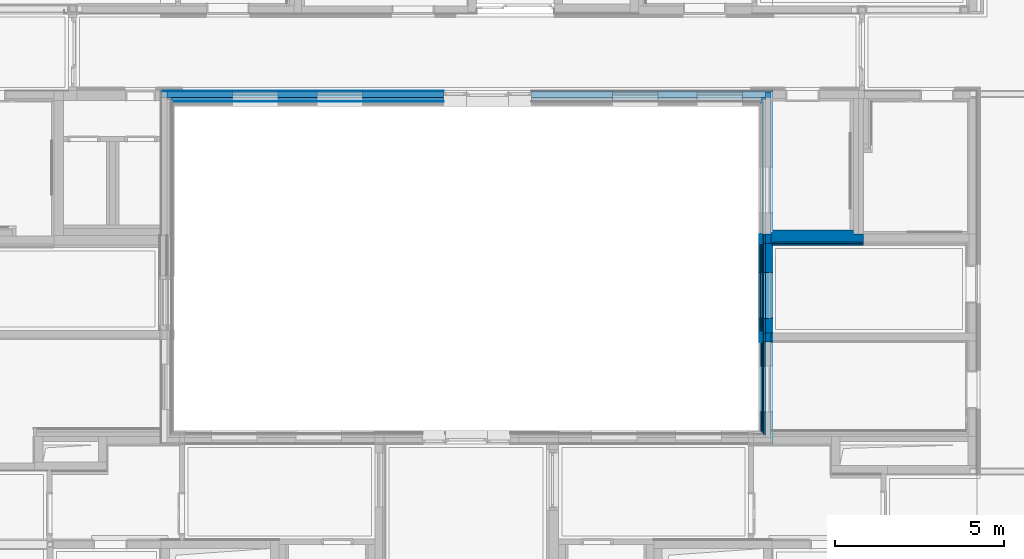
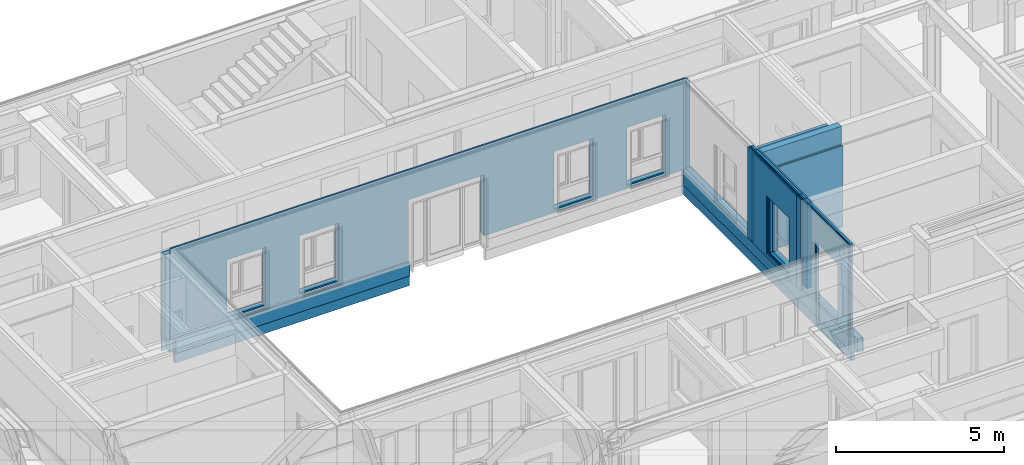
# One storey, part 34 of 207: 40 walls, 31 openings.
"""IFC4 building model written with IfcOpenShell, lengths in metres."""

from ifc_helpers import new_model, entity, si_unit, converted_unit, derived_unit, frame, frame_2d, origin, origin_with_axes, place, context, subcontext, project, spatial, polyline, rectangle, outline, extrude, material, element, save


model = new_model("IFC4")

# Units and contexts
model_context = context("Model", 3, precision=1e-05, world=origin())
body_context = subcontext(model_context, "Body", "Model", "MODEL_VIEW")
ifc_project = project(units=[si_unit("LENGTHUNIT", "METRE"), si_unit("AREAUNIT", "SQUARE_METRE"), si_unit("VOLUMEUNIT", "CUBIC_METRE"), si_unit("MASSUNIT", "GRAM", prefix="KILO"), converted_unit("PLANEANGLEUNIT", "DEGREE", entity("IfcPlaneAngleMeasure", 0.0174532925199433), si_unit("PLANEANGLEUNIT", "RADIAN"), dimensions=[0, 0, 0, 0, 0, 0, 0]), derived_unit("THERMALTRANSMITTANCEUNIT", [(si_unit("POWERUNIT", "WATT"), 1), (si_unit("THERMODYNAMICTEMPERATUREUNIT", "KELVIN"), -1), (si_unit("LENGTHUNIT", "METRE"), -2)]), derived_unit("VOLUMETRICFLOWRATEUNIT", [(si_unit("LENGTHUNIT", "METRE"), 3), (converted_unit("TIMEUNIT", "hour", entity("IfcTimeMeasure", 3600.0), si_unit("TIMEUNIT", "SECOND"), dimensions=[0, 0, 1, 0, 0, 0, 0]), -1), (si_unit("LENGTHUNIT", "METRE"), -1)])], contexts=[model_context])

# Site, building, storey
site_placement = place(None, origin())
site = spatial("IfcSite", under=ifc_project, at=site_placement, Name="Psychiatrie Neubau Wunstorf", CompositionType="ELEMENT")
building_placement = place(site_placement, origin())
building = spatial("IfcBuilding", under=site, at=building_placement, Name="Neubau H2 Stationsgebäude", CompositionType="ELEMENT")
storey_placement = place(building_placement, frame((0.0, 0.0, -0.2)))
storey = spatial("IfcBuildingStorey", under=building, at=storey_placement, Name="H2 Ebene 0", CompositionType="ELEMENT", Elevation=-0.2)

# Wall, opening
ifc_material_1 = material(Name="WA-DL")
wall_1_placement = place(storey_placement, frame((61.865000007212, 10.3899996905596, 0.5), z_axis=(0.0, 0.0, 1.0), x_axis=(2.64821317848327e-15, 1.0, 0.0)))
wall_1 = element("IfcWall", 1, at=wall_1_placement, inside=storey, material=ifc_material_1, context=body_context, shape_type="SweptSolid", body=[
    extrude(rectangle(XDim=2.74749694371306, YDim=0.08, at=frame_2d((1.37374847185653, 0.04), x_axis=(1.0, 0.0))), origin_with_axes(), (0.0, 0.0, 1.0), 3.3),
])
opening_1_placement = place(wall_1_placement, frame((0.685, 0.0, 0.1), z_axis=(-2.8421709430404e-15, 1.0, 0.0), x_axis=(0.0, 0.0, 1.0)))
element("IfcOpeningElement", 2, at=opening_1_placement, cuts=wall_1, Name="Fensteröffnung", ObjectType="Opening", context=body_context, shape_type="SweptSolid", body=[
    extrude(outline(polyline([(2.12, 1.35), (2.12, 0.0), (0.0, 0.0), (0.0, 1.35), (2.12, 1.35)])), origin_with_axes(), (0.0, 0.0, 1.0), 0.08),
])

ifc_material_2 = material(Name="WA-LB")
wall_2_placement = place(storey_placement, frame((61.785000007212, 10.4259996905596, 0.5), z_axis=(0.0, 0.0, 1.0), x_axis=(2.68337297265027e-15, 1.0, 0.0)))
wall_2 = element("IfcWall", 3, at=wall_2_placement, inside=storey, material=ifc_material_2, context=body_context, shape_type="SweptSolid", body=[
    extrude(rectangle(XDim=2.71149694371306, YDim=0.036, at=frame_2d((1.35574847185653, 0.018), x_axis=(1.0, 0.0))), origin_with_axes(), (0.0, 0.0, 1.0), 3.3),
])
opening_2_placement = place(wall_2_placement, frame((0.649, 0.0, 0.1), z_axis=(-3.15796771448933e-15, 1.0, 0.0), x_axis=(0.0, 0.0, 1.0)))
element("IfcOpeningElement", 4, at=opening_2_placement, cuts=wall_2, Name="Fensteröffnung", ObjectType="Opening", context=body_context, shape_type="SweptSolid", body=[
    extrude(outline(polyline([(2.12, 1.35), (2.12, 0.0), (0.0, 0.0), (0.0, 1.35), (2.12, 1.35)])), origin_with_axes(), (0.0, 0.0, 1.0), 0.036),
])

ifc_material_3 = material(Name="WA-KL")
wall_3_placement = place(storey_placement, frame((61.749000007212, 10.4499996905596, 0.5), z_axis=(0.0, 0.0, 1.0), x_axis=(2.70733614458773e-15, 1.0, 0.0)))
wall_3 = element("IfcWall", 5, at=wall_3_placement, inside=storey, material=ifc_material_3, context=body_context, shape_type="SweptSolid", body=[
    extrude(rectangle(XDim=2.68749694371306, YDim=0.024, at=frame_2d((1.34374847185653, 0.012), x_axis=(1.0, 0.0))), origin_with_axes(), (0.0, 0.0, 1.0), 3.3),
])
opening_3_placement = place(wall_3_placement, frame((0.625, 0.0, 0.1), z_axis=(-4.736951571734e-15, 1.0, 0.0), x_axis=(0.0, 0.0, 1.0)))
element("IfcOpeningElement", 6, at=opening_3_placement, cuts=wall_3, Name="Fensteröffnung", ObjectType="Opening", context=body_context, shape_type="SweptSolid", body=[
    extrude(outline(polyline([(2.12, 1.35), (2.12, 0.0), (0.0, 0.0), (0.0, 1.35), (2.12, 1.35)])), origin_with_axes(), (0.0, 0.0, 1.0), 0.024),
])

ifc_material_4 = material(Name="WA-LB")
wall_4_placement = place(storey_placement, frame((62.0610000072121, 13.4094966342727, 0.5), z_axis=(0.0, 0.0, 1.0), x_axis=(0.0, 1.0, 0.0)))
wall_4 = element("IfcWall", 7, at=wall_4_placement, inside=storey, material=ifc_material_4, context=body_context, shape_type="SweptSolid", body=[
    extrude(rectangle(XDim=2.65450336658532, YDim=0.036, at=frame_2d((1.32725168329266, 0.018), x_axis=(1.0, 0.0))), origin_with_axes(), (0.0, 0.0, 1.0), 3.1),
])
opening_4_placement = place(wall_4_placement, frame((0.434501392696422, 0.0, 0.1), z_axis=(0.0, 1.0, 0.0), x_axis=(0.0, 0.0, 1.0)))
element("IfcOpeningElement", 8, at=opening_4_placement, cuts=wall_4, Name="Fensteröffnung", ObjectType="Opening", context=body_context, shape_type="SweptSolid", body=[
    extrude(outline(polyline([(2.12, 1.35), (2.12, 0.0), (0.0, 0.0), (0.0, 1.35), (2.12, 1.35)])), origin_with_axes(), (0.0, 0.0, 1.0), 0.036),
])

ifc_material_5 = material(Name="WA-HD")
wall_5_placement = place(storey_placement, frame((62.0250000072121, 13.4094966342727, 0.5), z_axis=(0.0, 0.0, 1.0), x_axis=(0.0, 1.0, 0.0)))
wall_5 = element("IfcWall", 9, at=wall_5_placement, inside=storey, material=ifc_material_5, context=body_context, shape_type="SweptSolid", body=[
    extrude(rectangle(XDim=2.65450336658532, YDim=0.16, at=frame_2d((1.32725168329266, 0.08), x_axis=(1.0, 0.0))), origin_with_axes(), (0.0, 0.0, 1.0), 3.1),
])
opening_5_placement = place(wall_5_placement, frame((0.434501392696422, 0.0, 0.1), z_axis=(0.0, 1.0, 0.0), x_axis=(0.0, 0.0, 1.0)))
element("IfcOpeningElement", 10, at=opening_5_placement, cuts=wall_5, Name="Fensteröffnung", ObjectType="Opening", context=body_context, shape_type="SweptSolid", body=[
    extrude(outline(polyline([(2.12, 1.35), (2.12, 0.0), (0.0, 0.0), (0.0, 1.35), (2.12, 1.35)])), origin_with_axes(), (0.0, 0.0, 1.0), 0.16),
])

ifc_material_6 = material(Name="WA-DL")
wall_6_placement = place(storey_placement, frame((61.8650000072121, 13.4094966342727, 0.5), z_axis=(0.0, 0.0, 1.0), x_axis=(0.0, 1.0, 0.0)))
wall_6 = element("IfcWall", 11, at=wall_6_placement, inside=storey, material=ifc_material_6, context=body_context, shape_type="SweptSolid", body=[
    extrude(rectangle(XDim=2.65450336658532, YDim=0.08, at=frame_2d((1.32725168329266, 0.04), x_axis=(1.0, 0.0))), origin_with_axes(), (0.0, 0.0, 1.0), 3.3),
])
opening_6_placement = place(wall_6_placement, frame((0.434501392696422, 0.0, 0.1), z_axis=(0.0, 1.0, 0.0), x_axis=(0.0, 0.0, 1.0)))
element("IfcOpeningElement", 12, at=opening_6_placement, cuts=wall_6, Name="Fensteröffnung", ObjectType="Opening", context=body_context, shape_type="SweptSolid", body=[
    extrude(outline(polyline([(2.12, 1.35), (2.12, 0.0), (0.0, 0.0), (0.0, 1.35), (2.12, 1.35)])), origin_with_axes(), (0.0, 0.0, 1.0), 0.08),
])

ifc_material_7 = material(Name="WA-LB")
wall_7_placement = place(storey_placement, frame((61.7850000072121, 13.4094966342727, 0.5), z_axis=(0.0, 0.0, 1.0), x_axis=(0.0, 1.0, 0.0)))
wall_7 = element("IfcWall", 13, at=wall_7_placement, inside=storey, material=ifc_material_7, context=body_context, shape_type="SweptSolid", body=[
    extrude(rectangle(XDim=2.65450336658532, YDim=0.036, at=frame_2d((1.32725168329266, 0.018), x_axis=(1.0, 0.0))), origin_with_axes(), (0.0, 0.0, 1.0), 3.3),
])
opening_7_placement = place(wall_7_placement, frame((0.434501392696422, 0.0, 0.1), z_axis=(0.0, 1.0, 0.0), x_axis=(0.0, 0.0, 1.0)))
element("IfcOpeningElement", 14, at=opening_7_placement, cuts=wall_7, Name="Fensteröffnung", ObjectType="Opening", context=body_context, shape_type="SweptSolid", body=[
    extrude(outline(polyline([(2.12, 1.35), (2.12, 0.0), (0.0, 0.0), (0.0, 1.35), (2.12, 1.35)])), origin_with_axes(), (0.0, 0.0, 1.0), 0.036),
])

ifc_material_8 = material(Name="WA-KL")
wall_8_placement = place(storey_placement, frame((61.7490000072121, 13.4094966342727, 0.5), z_axis=(0.0, 0.0, 1.0), x_axis=(0.0, 1.0, 0.0)))
wall_8 = element("IfcWall", 15, at=wall_8_placement, inside=storey, material=ifc_material_8, context=body_context, shape_type="SweptSolid", body=[
    extrude(rectangle(XDim=2.65450336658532, YDim=0.024, at=frame_2d((1.32725168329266, 0.012), x_axis=(1.0, 0.0))), origin_with_axes(), (0.0, 0.0, 1.0), 3.3),
])
opening_8_placement = place(wall_8_placement, frame((0.434501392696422, 0.0, 0.1), z_axis=(0.0, 1.0, 0.0), x_axis=(0.0, 0.0, 1.0)))
element("IfcOpeningElement", 16, at=opening_8_placement, cuts=wall_8, Name="Fensteröffnung", ObjectType="Opening", context=body_context, shape_type="SweptSolid", body=[
    extrude(outline(polyline([(2.12, 1.35), (2.12, 0.0), (0.0, 0.0), (0.0, 1.35), (2.12, 1.35)])), origin_with_axes(), (0.0, 0.0, 1.0), 0.024),
])

ifc_material_9 = material(Name="WA-TL")
wall_9_placement = place(storey_placement, frame((61.7250000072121, 13.4094966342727, 0.5), z_axis=(0.0, 0.0, 1.0), x_axis=(0.0, 1.0, 0.0)))
wall_9 = element("IfcWall", 17, at=wall_9_placement, inside=storey, material=ifc_material_9, context=body_context, shape_type="SweptSolid", body=[
    extrude(rectangle(XDim=2.65450336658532, YDim=0.024, at=frame_2d((1.32725168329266, 0.012), x_axis=(1.0, 0.0))), origin_with_axes(), (0.0, 0.0, 1.0), 3.3),
])
opening_9_placement = place(wall_9_placement, frame((0.434501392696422, 0.0, 0.1), z_axis=(0.0, 1.0, 0.0), x_axis=(0.0, 0.0, 1.0)))
element("IfcOpeningElement", 18, at=opening_9_placement, cuts=wall_9, Name="Fensteröffnung", ObjectType="Opening", context=body_context, shape_type="SweptSolid", body=[
    extrude(outline(polyline([(2.12, 1.35), (2.12, 0.0), (0.0, 0.0), (0.0, 1.35), (2.12, 1.35)])), origin_with_axes(), (0.0, 0.0, 1.0), 0.024),
])

ifc_material_10 = material(Name="WA-HS")
wall_10_placement = place(storey_placement, frame((61.7010000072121, 13.4094966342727, 0.5), z_axis=(0.0, 0.0, 1.0), x_axis=(0.0, 1.0, 0.0)))
wall_10 = element("IfcWall", 19, at=wall_10_placement, inside=storey, material=ifc_material_10, context=body_context, shape_type="SweptSolid", body=[
    extrude(rectangle(XDim=2.65450336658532, YDim=0.042, at=frame_2d((1.32725168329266, 0.021), x_axis=(1.0, 0.0))), origin_with_axes(), (0.0, 0.0, 1.0), 3.3),
])
opening_10_placement = place(wall_10_placement, frame((0.434501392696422, 0.0, 0.1), z_axis=(0.0, 1.0, 0.0), x_axis=(0.0, 0.0, 1.0)))
element("IfcOpeningElement", 20, at=opening_10_placement, cuts=wall_10, Name="Fensteröffnung", ObjectType="Opening", context=body_context, shape_type="SweptSolid", body=[
    extrude(outline(polyline([(2.12, 1.35), (2.12, 0.0), (0.0, 0.0), (0.0, 1.35), (2.12, 1.35)])), origin_with_axes(), (0.0, 0.0, 1.0), 0.042),
])

# Walls
ifc_material_11 = material(Name="WA-LB")
wall_11_placement = place(storey_placement, frame((62.0610000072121, 13.1374966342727, 0.5), z_axis=(0.0, 0.0, 1.0), x_axis=(0.0, 1.0, 0.0)))
element("IfcWall", 21, at=wall_11_placement, inside=storey, material=ifc_material_11, context=body_context, shape_type="SweptSolid", body=[
    extrude(rectangle(XDim=0.272, YDim=0.036, at=frame_2d((0.136, 0.018), x_axis=(1.0, 0.0))), origin_with_axes(), (0.0, 0.0, 1.0), 3.1),
])
ifc_material_12 = material(Name="WA-HD")
wall_12_placement = place(storey_placement, frame((62.0250000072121, 13.1374966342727, 0.5), z_axis=(0.0, 0.0, 1.0), x_axis=(0.0, 1.0, 0.0)))
element("IfcWall", 22, at=wall_12_placement, inside=storey, material=ifc_material_12, context=body_context, shape_type="SweptSolid", body=[
    extrude(rectangle(XDim=0.272, YDim=0.16, at=frame_2d((0.136, 0.08), x_axis=(1.0, 0.0))), origin_with_axes(), (0.0, 0.0, 1.0), 3.1),
])
ifc_material_13 = material(Name="WA-DL")
wall_13_placement = place(storey_placement, frame((61.8650000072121, 13.1374966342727, 0.5), z_axis=(0.0, 0.0, 1.0), x_axis=(0.0, 1.0, 0.0)))
element("IfcWall", 23, at=wall_13_placement, inside=storey, material=ifc_material_13, context=body_context, shape_type="SweptSolid", body=[
    extrude(rectangle(XDim=0.272, YDim=0.08, at=frame_2d((0.136, 0.04), x_axis=(1.0, 0.0))), origin_with_axes(), (0.0, 0.0, 1.0), 3.3),
])
ifc_material_14 = material(Name="WA-TP")
wall_14_placement = place(storey_placement, frame((61.7850000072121, 13.1374966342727, 0.5), z_axis=(0.0, 0.0, 1.0), x_axis=(0.0, 1.0, 0.0)))
element("IfcWall", 24, at=wall_14_placement, inside=storey, material=ifc_material_14, context=body_context, shape_type="SweptSolid", body=[
    extrude(rectangle(XDim=0.272, YDim=0.036, at=frame_2d((0.136, 0.018), x_axis=(1.0, 0.0))), origin_with_axes(), (0.0, 0.0, 1.0), 3.3),
])
ifc_material_15 = material(Name="WA-KL")
wall_15_placement = place(storey_placement, frame((61.7490000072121, 13.1374966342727, 0.5), z_axis=(0.0, 0.0, 1.0), x_axis=(0.0, 1.0, 0.0)))
element("IfcWall", 25, at=wall_15_placement, inside=storey, material=ifc_material_15, context=body_context, shape_type="SweptSolid", body=[
    extrude(rectangle(XDim=0.272, YDim=0.024, at=frame_2d((0.136, 0.012), x_axis=(1.0, 0.0))), origin_with_axes(), (0.0, 0.0, 1.0), 3.3),
])
ifc_material_16 = material(Name="WA-TL")
wall_16_placement = place(storey_placement, frame((61.7250000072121, 13.1374966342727, 0.5), z_axis=(0.0, 0.0, 1.0), x_axis=(0.0, 1.0, 0.0)))
element("IfcWall", 26, at=wall_16_placement, inside=storey, material=ifc_material_16, context=body_context, shape_type="SweptSolid", body=[
    extrude(rectangle(XDim=0.272, YDim=0.024, at=frame_2d((0.136, 0.012), x_axis=(1.0, 0.0))), origin_with_axes(), (0.0, 0.0, 1.0), 3.3),
])
ifc_material_17 = material(Name="WA-HS")
wall_17_placement = place(storey_placement, frame((61.7010000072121, 13.1374966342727, 0.5), z_axis=(0.0, 0.0, 1.0), x_axis=(0.0, 1.0, 0.0)))
element("IfcWall", 27, at=wall_17_placement, inside=storey, material=ifc_material_17, context=body_context, shape_type="SweptSolid", body=[
    extrude(rectangle(XDim=0.272, YDim=0.042, at=frame_2d((0.136, 0.021), x_axis=(1.0, 0.0))), origin_with_axes(), (0.0, 0.0, 1.0), 3.3),
])
ifc_material_18 = material(Name="WA-LB")
wall_18_placement = place(storey_placement, frame((62.0610000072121, 16.064000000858, 0.5), z_axis=(0.0, 0.0, 1.0), x_axis=(0.0, 1.0, 0.0)))
element("IfcWall", 28, at=wall_18_placement, inside=storey, material=ifc_material_18, context=body_context, shape_type="SweptSolid", body=[
    extrude(rectangle(XDim=0.272, YDim=0.036, at=frame_2d((0.136, 0.018), x_axis=(1.0, 0.0))), origin_with_axes(), (0.0, 0.0, 1.0), 3.1),
])
ifc_material_19 = material(Name="WA-HD")
wall_19_placement = place(storey_placement, frame((62.0250000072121, 16.064000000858, 0.5), z_axis=(0.0, 0.0, 1.0), x_axis=(0.0, 1.0, 0.0)))
element("IfcWall", 29, at=wall_19_placement, inside=storey, material=ifc_material_19, context=body_context, shape_type="SweptSolid", body=[
    extrude(rectangle(XDim=0.272, YDim=0.16, at=frame_2d((0.136, 0.08), x_axis=(1.0, 0.0))), origin_with_axes(), (0.0, 0.0, 1.0), 3.1),
])
ifc_material_20 = material(Name="WA-DL")
wall_20_placement = place(storey_placement, frame((61.8650000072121, 16.064000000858, 0.5), z_axis=(0.0, 0.0, 1.0), x_axis=(0.0, 1.0, 0.0)))
element("IfcWall", 30, at=wall_20_placement, inside=storey, material=ifc_material_20, context=body_context, shape_type="SweptSolid", body=[
    extrude(rectangle(XDim=0.272, YDim=0.08, at=frame_2d((0.136, 0.04), x_axis=(1.0, 0.0))), origin_with_axes(), (0.0, 0.0, 1.0), 3.3),
])
ifc_material_21 = material(Name="WA-TP")
wall_21_placement = place(storey_placement, frame((61.7850000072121, 16.064000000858, 0.5), z_axis=(0.0, 0.0, 1.0), x_axis=(0.0, 1.0, 0.0)))
element("IfcWall", 31, at=wall_21_placement, inside=storey, material=ifc_material_21, context=body_context, shape_type="SweptSolid", body=[
    extrude(rectangle(XDim=0.272, YDim=0.036, at=frame_2d((0.136, 0.018), x_axis=(1.0, 0.0))), origin_with_axes(), (0.0, 0.0, 1.0), 3.3),
])
ifc_material_22 = material(Name="WA-KL")
wall_22_placement = place(storey_placement, frame((61.7490000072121, 16.064000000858, 0.5), z_axis=(0.0, 0.0, 1.0), x_axis=(0.0, 1.0, 0.0)))
element("IfcWall", 32, at=wall_22_placement, inside=storey, material=ifc_material_22, context=body_context, shape_type="SweptSolid", body=[
    extrude(rectangle(XDim=0.272, YDim=0.024, at=frame_2d((0.136, 0.012), x_axis=(1.0, 0.0))), origin_with_axes(), (0.0, 0.0, 1.0), 3.3),
])
ifc_material_23 = material(Name="WA-TL")
wall_23_placement = place(storey_placement, frame((61.7250000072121, 16.064000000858, 0.5), z_axis=(0.0, 0.0, 1.0), x_axis=(0.0, 1.0, 0.0)))
element("IfcWall", 33, at=wall_23_placement, inside=storey, material=ifc_material_23, context=body_context, shape_type="SweptSolid", body=[
    extrude(rectangle(XDim=0.272, YDim=0.024, at=frame_2d((0.136, 0.012), x_axis=(1.0, 0.0))), origin_with_axes(), (0.0, 0.0, 1.0), 3.3),
])
ifc_material_24 = material(Name="WA-HS")
wall_24_placement = place(storey_placement, frame((61.7010000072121, 16.064000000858, 0.5), z_axis=(0.0, 0.0, 1.0), x_axis=(0.0, 1.0, 0.0)))
element("IfcWall", 34, at=wall_24_placement, inside=storey, material=ifc_material_24, context=body_context, shape_type="SweptSolid", body=[
    extrude(rectangle(XDim=0.272, YDim=0.042, at=frame_2d((0.136, 0.021), x_axis=(1.0, 0.0))), origin_with_axes(), (0.0, 0.0, 1.0), 3.3),
])

# Wall, openings
ifc_material_25 = material(Name="WA-LB")
wall_25_placement = place(storey_placement, frame((62.0610000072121, 20.5859980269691, 0.5), z_axis=(0.0, 0.0, 1.0), x_axis=(-1.0, 0.0, 0.0)))
wall_25 = element("IfcWall", 35, at=wall_25_placement, inside=storey, material=ifc_material_25, context=body_context, shape_type="SweptSolid", body=[
    extrude(rectangle(XDim=18.1220000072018, YDim=0.0359999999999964, at=frame_2d((9.06100000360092, 0.0179999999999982), x_axis=(1.0, 0.0))), origin_with_axes(), (0.0, 0.0, 1.0), 3.1),
])
opening_11_placement = place(wall_25_placement, frame((7.81338818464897, 0.0360000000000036, -0.3), z_axis=(0.0, -1.0, 0.0), x_axis=(0.0, 0.0, 1.0)))
element("IfcOpeningElement", 36, at=opening_11_placement, cuts=wall_25, Name="Fensteröffnung", ObjectType="Opening", context=body_context, shape_type="SweptSolid", body=[
    extrude(outline(polyline([(2.52, 0.675), (2.52, 0.0), (0.0, 0.0), (0.0, 0.675), (2.52, 0.675)])), origin_with_axes(), (0.0, 0.0, 1.0), 0.0360000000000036),
])
opening_12_placement = place(wall_25_placement, frame((15.9883882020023, 0.0359999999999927, 0.1), z_axis=(0.0, -1.0, 0.0), x_axis=(0.0, 0.0, 1.0)))
element("IfcOpeningElement", 37, at=opening_12_placement, cuts=wall_25, Name="Fensteröffnung", ObjectType="Opening", context=body_context, shape_type="SweptSolid", body=[
    extrude(outline(polyline([(2.12, 1.35), (2.12, 0.0), (0.0, 0.0), (0.0, 1.35), (2.12, 1.35)])), origin_with_axes(), (0.0, 0.0, 1.0), 0.0360000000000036),
])
opening_13_placement = place(wall_25_placement, frame((13.488388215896, 0.036, 0.1), z_axis=(0.0, -1.0, 0.0), x_axis=(0.0, 0.0, 1.0)))
element("IfcOpeningElement", 38, at=opening_13_placement, cuts=wall_25, Name="Fensteröffnung", ObjectType="Opening", context=body_context, shape_type="SweptSolid", body=[
    extrude(outline(polyline([(2.12, 1.35), (2.12, 0.0), (0.0, 0.0), (0.0, 1.35), (2.12, 1.35)])), origin_with_axes(), (0.0, 0.0, 1.0), 0.036),
])
opening_14_placement = place(wall_25_placement, frame((4.738388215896, 0.0360000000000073, 0.1), z_axis=(0.0, -1.0, 0.0), x_axis=(0.0, 0.0, 1.0)))
element("IfcOpeningElement", 39, at=opening_14_placement, cuts=wall_25, Name="Fensteröffnung", ObjectType="Opening", context=body_context, shape_type="SweptSolid", body=[
    extrude(outline(polyline([(2.12, 1.35), (2.12, 0.0), (0.0, 0.0), (0.0, 1.35), (2.12, 1.35)])), origin_with_axes(), (0.0, 0.0, 1.0), 0.0360000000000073),
])
opening_15_placement = place(wall_25_placement, frame((2.238388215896, 0.0360000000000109, 0.1), z_axis=(0.0, -1.0, 0.0), x_axis=(0.0, 0.0, 1.0)))
element("IfcOpeningElement", 40, at=opening_15_placement, cuts=wall_25, Name="Fensteröffnung", ObjectType="Opening", context=body_context, shape_type="SweptSolid", body=[
    extrude(outline(polyline([(2.12, 1.35), (2.12, 0.0), (0.0, 0.0), (0.0, 1.35), (2.12, 1.35)])), origin_with_axes(), (0.0, 0.0, 1.0), 0.0360000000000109),
])
opening_16_placement = place(wall_25_placement, frame((9.063388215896, 0.0360000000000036, -0.5), z_axis=(0.0, -1.0, 0.0), x_axis=(0.0, 0.0, 1.0)))
element("IfcOpeningElement", 41, at=opening_16_placement, cuts=wall_25, Name="Türöffnung", ObjectType="Opening", context=body_context, shape_type="SweptSolid", body=[
    extrude(outline(polyline([(2.72, 1.25), (2.72, 0.0), (0.0, 0.0), (0.0, 1.25), (2.72, 1.25)])), origin_with_axes(), (0.0, 0.0, 1.0), 0.0360000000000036),
])
opening_17_placement = place(wall_25_placement, frame((9.738388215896, 0.0360000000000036, -0.3), z_axis=(0.0, -1.0, 0.0), x_axis=(0.0, 0.0, 1.0)))
element("IfcOpeningElement", 42, at=opening_17_placement, cuts=wall_25, Name="Fensteröffnung", ObjectType="Opening", context=body_context, shape_type="SweptSolid", body=[
    extrude(outline(polyline([(2.52, 0.675), (2.52, 0.0), (0.0, 0.0), (0.0, 0.675), (2.52, 0.675)])), origin_with_axes(), (0.0, 0.0, 1.0), 0.0360000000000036),
])

ifc_material_26 = material(Name="WA-HD")
wall_26_placement = place(storey_placement, frame((62.0250000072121, 20.5499980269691, 0.5), z_axis=(0.0, 0.0, 1.0), x_axis=(-1.0, 8.06200289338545e-16, 0.0)))
wall_26 = element("IfcWall", 43, at=wall_26_placement, inside=storey, material=ifc_material_26, context=body_context, shape_type="SweptSolid", body=[
    extrude(rectangle(XDim=18.0500000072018, YDim=0.16, at=frame_2d((9.02500000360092, 0.08), x_axis=(1.0, 0.0))), origin_with_axes(), (0.0, 0.0, 1.0), 3.1),
])
opening_18_placement = place(wall_26_placement, frame((7.77738818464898, 0.159999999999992, -0.3), z_axis=(0.0, -1.0, 0.0), x_axis=(0.0, 0.0, 1.0)))
element("IfcOpeningElement", 44, at=opening_18_placement, cuts=wall_26, Name="Fensteröffnung", ObjectType="Opening", context=body_context, shape_type="SweptSolid", body=[
    extrude(outline(polyline([(2.52, 0.675), (2.52, 0.0), (0.0, 0.0), (0.0, 0.675), (2.52, 0.675)])), origin_with_axes(), (0.0, 0.0, 1.0), 0.159999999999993),
])
opening_19_placement = place(wall_26_placement, frame((2.202388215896, 0.159999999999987, 0.1), z_axis=(0.0, -1.0, 0.0), x_axis=(0.0, 0.0, 1.0)))
element("IfcOpeningElement", 45, at=opening_19_placement, cuts=wall_26, Name="Fensteröffnung", ObjectType="Opening", context=body_context, shape_type="SweptSolid", body=[
    extrude(outline(polyline([(2.12, 1.35), (2.12, 0.0), (0.0, 0.0), (0.0, 1.35), (2.12, 1.35)])), origin_with_axes(), (0.0, 0.0, 1.0), 0.159999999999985),
])
opening_20_placement = place(wall_26_placement, frame((4.702388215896, 0.159999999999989, 0.1), z_axis=(0.0, -1.0, 0.0), x_axis=(0.0, 0.0, 1.0)))
element("IfcOpeningElement", 46, at=opening_20_placement, cuts=wall_26, Name="Fensteröffnung", ObjectType="Opening", context=body_context, shape_type="SweptSolid", body=[
    extrude(outline(polyline([(2.12, 1.35), (2.12, 0.0), (0.0, 0.0), (0.0, 1.35), (2.12, 1.35)])), origin_with_axes(), (0.0, 0.0, 1.0), 0.159999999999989),
])
opening_21_placement = place(wall_26_placement, frame((13.452388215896, 0.159999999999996, 0.1), z_axis=(0.0, -1.0, 0.0), x_axis=(0.0, 0.0, 1.0)))
element("IfcOpeningElement", 47, at=opening_21_placement, cuts=wall_26, Name="Fensteröffnung", ObjectType="Opening", context=body_context, shape_type="SweptSolid", body=[
    extrude(outline(polyline([(2.12, 1.35), (2.12, 0.0), (0.0, 0.0), (0.0, 1.35), (2.12, 1.35)])), origin_with_axes(), (0.0, 0.0, 1.0), 0.159999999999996),
])
opening_22_placement = place(wall_26_placement, frame((15.9523882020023, 0.159999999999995, 0.1), z_axis=(0.0, -1.0, 0.0), x_axis=(0.0, 0.0, 1.0)))
element("IfcOpeningElement", 48, at=opening_22_placement, cuts=wall_26, Name="Fensteröffnung", ObjectType="Opening", context=body_context, shape_type="SweptSolid", body=[
    extrude(outline(polyline([(2.12, 1.35), (2.12, 0.0), (0.0, 0.0), (0.0, 1.35), (2.12, 1.35)])), origin_with_axes(), (0.0, 0.0, 1.0), 0.16),
])
opening_23_placement = place(wall_26_placement, frame((9.027388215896, 0.159999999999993, -0.5), z_axis=(0.0, -1.0, 0.0), x_axis=(0.0, 0.0, 1.0)))
element("IfcOpeningElement", 49, at=opening_23_placement, cuts=wall_26, Name="Türöffnung", ObjectType="Opening", context=body_context, shape_type="SweptSolid", body=[
    extrude(outline(polyline([(2.72, 1.25), (2.72, 0.0), (0.0, 0.0), (0.0, 1.25), (2.72, 1.25)])), origin_with_axes(), (0.0, 0.0, 1.0), 0.159999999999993),
])
opening_24_placement = place(wall_26_placement, frame((9.702388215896, 0.159999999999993, -0.3), z_axis=(0.0, -1.0, 0.0), x_axis=(0.0, 0.0, 1.0)))
element("IfcOpeningElement", 50, at=opening_24_placement, cuts=wall_26, Name="Fensteröffnung", ObjectType="Opening", context=body_context, shape_type="SweptSolid", body=[
    extrude(outline(polyline([(2.52, 0.675), (2.52, 0.0), (0.0, 0.0), (0.0, 0.675), (2.52, 0.675)])), origin_with_axes(), (0.0, 0.0, 1.0), 0.159999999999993),
])

ifc_material_27 = material(Name="WA-DL")
wall_27_placement = place(storey_placement, frame((61.8650000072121, 20.3899980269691, 0.5), z_axis=(0.0, 0.0, 1.0), x_axis=(-1.0, 0.0, 0.0)))
wall_27 = element("IfcWall", 51, at=wall_27_placement, inside=storey, material=ifc_material_27, context=body_context, shape_type="SweptSolid", body=[
    extrude(rectangle(XDim=17.7300000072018, YDim=0.06, at=frame_2d((8.86500000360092, 0.03), x_axis=(1.0, 0.0))), origin_with_axes(), (0.0, 0.0, 1.0), 3.3),
])
opening_25_placement = place(wall_27_placement, frame((7.61738818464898, 0.06, -0.3), z_axis=(0.0, -1.0, 0.0), x_axis=(0.0, 0.0, 1.0)))
element("IfcOpeningElement", 52, at=opening_25_placement, cuts=wall_27, Name="Fensteröffnung", ObjectType="Opening", context=body_context, shape_type="SweptSolid", body=[
    extrude(outline(polyline([(2.52, 0.675), (2.52, 0.0), (0.0, 0.0), (0.0, 0.675), (2.52, 0.675)])), origin_with_axes(), (0.0, 0.0, 1.0), 0.06),
])
opening_26_placement = place(wall_27_placement, frame((2.042388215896, 0.06, 0.1), z_axis=(0.0, -1.0, 0.0), x_axis=(0.0, 0.0, 1.0)))
element("IfcOpeningElement", 53, at=opening_26_placement, cuts=wall_27, Name="Fensteröffnung", ObjectType="Opening", context=body_context, shape_type="SweptSolid", body=[
    extrude(outline(polyline([(2.12, 1.35), (2.12, 0.0), (0.0, 0.0), (0.0, 1.35), (2.12, 1.35)])), origin_with_axes(), (0.0, 0.0, 1.0), 0.06),
])
opening_27_placement = place(wall_27_placement, frame((4.542388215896, 0.06, 0.1), z_axis=(0.0, -1.0, 0.0), x_axis=(0.0, 0.0, 1.0)))
element("IfcOpeningElement", 54, at=opening_27_placement, cuts=wall_27, Name="Fensteröffnung", ObjectType="Opening", context=body_context, shape_type="SweptSolid", body=[
    extrude(outline(polyline([(2.12, 1.35), (2.12, 0.0), (0.0, 0.0), (0.0, 1.35), (2.12, 1.35)])), origin_with_axes(), (0.0, 0.0, 1.0), 0.06),
])
opening_28_placement = place(wall_27_placement, frame((13.292388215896, 0.06, 0.1), z_axis=(0.0, -1.0, 0.0), x_axis=(0.0, 0.0, 1.0)))
element("IfcOpeningElement", 55, at=opening_28_placement, cuts=wall_27, Name="Fensteröffnung", ObjectType="Opening", context=body_context, shape_type="SweptSolid", body=[
    extrude(outline(polyline([(2.12, 1.35), (2.12, 0.0), (0.0, 0.0), (0.0, 1.35), (2.12, 1.35)])), origin_with_axes(), (0.0, 0.0, 1.0), 0.06),
])
opening_29_placement = place(wall_27_placement, frame((15.7923882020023, 0.0599999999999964, 0.1), z_axis=(0.0, -1.0, 0.0), x_axis=(0.0, 0.0, 1.0)))
element("IfcOpeningElement", 56, at=opening_29_placement, cuts=wall_27, Name="Fensteröffnung", ObjectType="Opening", context=body_context, shape_type="SweptSolid", body=[
    extrude(outline(polyline([(2.12, 1.35), (2.12, 0.0), (0.0, 0.0), (0.0, 1.35), (2.12, 1.35)])), origin_with_axes(), (0.0, 0.0, 1.0), 0.06),
])
opening_30_placement = place(wall_27_placement, frame((8.867388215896, 0.06, -0.5), z_axis=(0.0, -1.0, 0.0), x_axis=(0.0, 0.0, 1.0)))
element("IfcOpeningElement", 57, at=opening_30_placement, cuts=wall_27, Name="Türöffnung", ObjectType="Opening", context=body_context, shape_type="SweptSolid", body=[
    extrude(outline(polyline([(2.72, 1.25), (2.72, 0.0), (0.0, 0.0), (0.0, 1.25), (2.72, 1.25)])), origin_with_axes(), (0.0, 0.0, 1.0), 0.06),
])
opening_31_placement = place(wall_27_placement, frame((9.542388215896, 0.06, -0.3), z_axis=(0.0, -1.0, 0.0), x_axis=(0.0, 0.0, 1.0)))
element("IfcOpeningElement", 58, at=opening_31_placement, cuts=wall_27, Name="Fensteröffnung", ObjectType="Opening", context=body_context, shape_type="SweptSolid", body=[
    extrude(outline(polyline([(2.52, 0.675), (2.52, 0.0), (0.0, 0.0), (0.0, 0.675), (2.52, 0.675)])), origin_with_axes(), (0.0, 0.0, 1.0), 0.06),
])

# Walls
ifc_material_28 = material(Name="WA-LB")
wall_28_placement = place(storey_placement, frame((62.061000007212, 10.1139996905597, 0.0), z_axis=(0.0, 0.0, 1.0), x_axis=(1.38960251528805e-15, 1.0, 0.0)))
element("IfcWall", 59, at=wall_28_placement, inside=storey, material=ifc_material_28, context=body_context, shape_type="SweptSolid", body=[
    extrude(rectangle(XDim=10.4719983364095, YDim=0.021, at=frame_2d((5.23599916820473, 0.0105), x_axis=(1.0, 0.0))), origin_with_axes(), (0.0, 0.0, 1.0), 0.5),
])
ifc_material_29 = material(Name="WA-STB")
wall_29_placement = place(storey_placement, frame((62.040000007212, 10.1349996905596, 0.0), z_axis=(0.0, 0.0, 1.0), x_axis=(1.39519823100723e-15, 1.0, 0.0)))
element("IfcWall", 60, at=wall_29_placement, inside=storey, material=ifc_material_29, context=body_context, shape_type="SweptSolid", body=[
    extrude(rectangle(XDim=10.4299983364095, YDim=0.175, at=frame_2d((5.21499916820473, 0.0875), x_axis=(1.0, 0.0))), origin_with_axes(), (0.0, 0.0, 1.0), 0.5),
])
ifc_material_30 = material(Name="WA-DE")
wall_30_placement = place(storey_placement, frame((61.865000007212, 10.3099996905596, -0.36), z_axis=(0.0, 0.0, 1.0), x_axis=(1.44364262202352e-15, 1.0, 0.0)))
element("IfcWall", 61, at=wall_30_placement, inside=storey, material=ifc_material_30, context=body_context, shape_type="SweptSolid", body=[
    extrude(rectangle(XDim=10.0799983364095, YDim=0.12, at=frame_2d((5.03999916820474, 0.06), x_axis=(1.0, 0.0))), origin_with_axes(), (0.0, 0.0, 1.0), 0.86),
])
ifc_material_31 = material(Name="WA-LB")
wall_31_placement = place(storey_placement, frame((61.745000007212, 10.4299996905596, 0.0), z_axis=(0.0, 0.0, 1.0), x_axis=(1.47885342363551e-15, 1.0, 0.0)))
element("IfcWall", 62, at=wall_31_placement, inside=storey, material=ifc_material_31, context=body_context, shape_type="SweptSolid", body=[
    extrude(rectangle(XDim=9.83999833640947, YDim=0.015, at=frame_2d((4.91999916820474, 0.0075), x_axis=(1.0, 0.0))), origin_with_axes(), (0.0, 0.0, 1.0), 0.5),
])
ifc_material_32 = material(Name="WA-LB")
wall_32_placement = place(storey_placement, frame((52.3226117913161, 20.5859980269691, 0.0), z_axis=(0.0, 0.0, 1.0), x_axis=(-1.0, 0.0, 0.0)))
element("IfcWall", 63, at=wall_32_placement, inside=storey, material=ifc_material_32, context=body_context, shape_type="SweptSolid", body=[
    extrude(rectangle(XDim=8.36261179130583, YDim=0.021, at=frame_2d((4.18130589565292, 0.0105), x_axis=(1.0, 0.0))), origin_with_axes(), (0.0, 0.0, 1.0), 0.5),
])
ifc_material_33 = material(Name="WA-STB")
wall_33_placement = place(storey_placement, frame((52.3226117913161, 20.5649980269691, 0.0), z_axis=(0.0, 0.0, 1.0), x_axis=(-1.0, 0.0, 0.0)))
element("IfcWall", 64, at=wall_33_placement, inside=storey, material=ifc_material_33, context=body_context, shape_type="SweptSolid", body=[
    extrude(rectangle(XDim=8.18761179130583, YDim=0.175, at=frame_2d((4.09380589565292, 0.0875), x_axis=(1.0, 0.0))), origin_with_axes(), (0.0, 0.0, 1.0), 0.5),
])
ifc_material_34 = material(Name="WA-DE")
wall_34_placement = place(storey_placement, frame((52.3226117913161, 20.3899980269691, -0.36), z_axis=(0.0, 0.0, 1.0), x_axis=(-1.0, 0.0, 0.0)))
element("IfcWall", 65, at=wall_34_placement, inside=storey, material=ifc_material_34, context=body_context, shape_type="SweptSolid", body=[
    extrude(rectangle(XDim=8.06761179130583, YDim=0.12, at=frame_2d((4.03380589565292, 0.06), x_axis=(1.0, 0.0))), origin_with_axes(), (0.0, 0.0, 1.0), 0.86),
])
ifc_material_35 = material(Name="WA-LB")
wall_35_placement = place(storey_placement, frame((52.3226117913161, 20.2699980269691, 0.0), z_axis=(0.0, 0.0, 1.0), x_axis=(-1.0, 0.0, 0.0)))
element("IfcWall", 66, at=wall_35_placement, inside=storey, material=ifc_material_35, context=body_context, shape_type="SweptSolid", body=[
    extrude(rectangle(XDim=8.05261179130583, YDim=0.015, at=frame_2d((4.02630589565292, 0.0075), x_axis=(1.0, 0.0))), origin_with_axes(), (0.0, 0.0, 1.0), 0.5),
])
ifc_material_36 = material(Name="WI-IW")
wall_36_placement = place(storey_placement, frame((64.46, 16.4610000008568, 0.0), z_axis=(0.0, 0.0, 1.0), x_axis=(-1.0, 0.0, 0.0)))
element("IfcWall", 67, at=wall_36_placement, inside=storey, material=ifc_material_36, context=body_context, shape_type="SweptSolid", body=[
    extrude(rectangle(XDim=2.39899999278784, YDim=0.1, at=frame_2d((1.19949999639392, 0.05), x_axis=(1.0, 0.0))), origin_with_axes(), (0.0, 0.0, 1.0), 3.6),
])
ifc_material_37 = material(Name="Installationsraum")
wall_37_placement = place(storey_placement, frame((64.46, 16.3610000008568, 0.0), z_axis=(0.0, 0.0, 1.0), x_axis=(-1.0, 0.0, 0.0)))
element("IfcWall", 68, at=wall_37_placement, inside=storey, material=ifc_material_37, context=body_context, shape_type="SweptSolid", body=[
    extrude(rectangle(XDim=2.39899999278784, YDim=0.025, at=frame_2d((1.19949999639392, 0.0125), x_axis=(1.0, 0.0))), origin_with_axes(), (0.0, 0.0, 1.0), 3.6),
])
ifc_material_38 = material(Name="WI-HW 60")
wall_38_placement = place(storey_placement, frame((64.76, 16.3360000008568, 0.0), z_axis=(0.0, 0.0, 1.0), x_axis=(-1.0, 0.0, 0.0)))
element("IfcWall", 69, at=wall_38_placement, inside=storey, material=ifc_material_38, context=body_context, shape_type="SweptSolid", body=[
    extrude(rectangle(XDim=2.69899999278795, YDim=0.232, at=frame_2d((1.34949999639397, 0.116), x_axis=(1.0, 0.0))), origin_with_axes(), (0.0, 0.0, 1.0), 3.6),
])
ifc_material_39 = material(Name="Installationsraum")
wall_39_placement = place(storey_placement, frame((64.76, 16.1040000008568, 0.0), z_axis=(0.0, 0.0, 1.0), x_axis=(-1.0, 0.0, 0.0)))
element("IfcWall", 70, at=wall_39_placement, inside=storey, material=ifc_material_39, context=body_context, shape_type="SweptSolid", body=[
    extrude(rectangle(XDim=2.69899999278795, YDim=0.05, at=frame_2d((1.34949999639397, 0.025), x_axis=(1.0, 0.0))), origin_with_axes(), (0.0, 0.0, 1.0), 2.95),
])
ifc_material_40 = material(Name="WI-LB")
wall_40_placement = place(storey_placement, frame((64.76, 16.0540000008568, 0.0), z_axis=(0.0, 0.0, 1.0), x_axis=(-1.0, 0.0, 0.0)))
element("IfcWall", 71, at=wall_40_placement, inside=storey, material=ifc_material_40, context=body_context, shape_type="SweptSolid", body=[
    extrude(rectangle(XDim=2.69899999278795, YDim=0.04, at=frame_2d((1.34949999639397, 0.02), x_axis=(1.0, 0.0))), origin_with_axes(), (0.0, 0.0, 1.0), 2.95),
])

save(model, "model.ifc")
